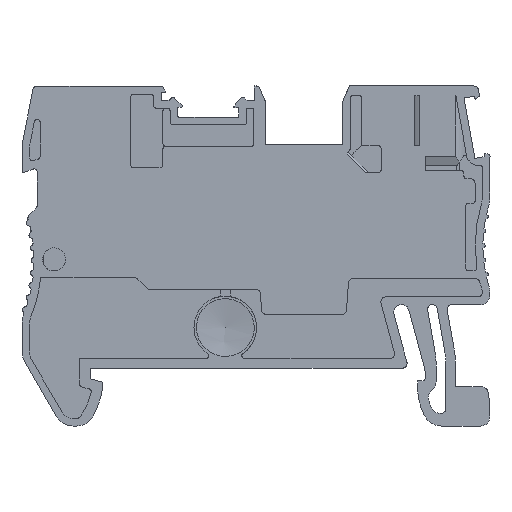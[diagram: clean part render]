
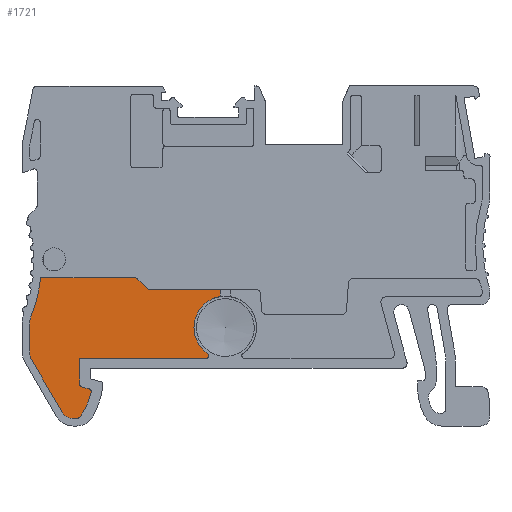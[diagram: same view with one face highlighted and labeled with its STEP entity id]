
A CAD part, left-side view. The second image highlights one B-rep face of the part: STEP entity #1721.
In plain terms, the highlighted planar face has unit normal (-1, 0, 0).
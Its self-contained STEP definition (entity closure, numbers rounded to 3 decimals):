
#1721=ADVANCED_FACE('',(#2787),#2223,.T.);
#2223=PLANE('',#14920);
#2787=FACE_OUTER_BOUND('',#3484,.T.);
#3484=EDGE_LOOP('',(#6765,#6766,#6767,#6768,#6769,#6770,#6771,#6772,#6773,
#6774,#6775,#6776,#6777,#6778,#6779,#6780,#6781,#6782,#6783,#6784,#6785,
#6786,#6787,#6788,#6789));
#4186=CIRCLE('',#14874,3.25);
#4187=CIRCLE('',#14875,3.25);
#4188=CIRCLE('',#14884,0.3);
#4189=CIRCLE('',#14888,0.3);
#4190=CIRCLE('',#14891,0.3);
#4191=CIRCLE('',#14893,7.797);
#4192=CIRCLE('',#14895,0.5);
#4193=CIRCLE('',#14898,1.2);
#4194=CIRCLE('',#14901,2.);
#4195=CIRCLE('',#14904,2.);
#4196=CIRCLE('',#14906,15.8);
#4197=CIRCLE('',#14909,0.5);
#4198=CIRCLE('',#14912,0.5);
#4199=CIRCLE('',#14915,0.2);
#4200=CIRCLE('',#14918,0.2);
#6765=ORIENTED_EDGE('',*,*,#10786,.T.);
#6766=ORIENTED_EDGE('',*,*,#10841,.T.);
#6767=ORIENTED_EDGE('',*,*,#10839,.T.);
#6768=ORIENTED_EDGE('',*,*,#10837,.T.);
#6769=ORIENTED_EDGE('',*,*,#10835,.F.);
#6770=ORIENTED_EDGE('',*,*,#10832,.T.);
#6771=ORIENTED_EDGE('',*,*,#10830,.T.);
#6772=ORIENTED_EDGE('',*,*,#10828,.T.);
#6773=ORIENTED_EDGE('',*,*,#10826,.T.);
#6774=ORIENTED_EDGE('',*,*,#10824,.T.);
#6775=ORIENTED_EDGE('',*,*,#10822,.T.);
#6776=ORIENTED_EDGE('',*,*,#10820,.F.);
#6777=ORIENTED_EDGE('',*,*,#10818,.T.);
#6778=ORIENTED_EDGE('',*,*,#10816,.T.);
#6779=ORIENTED_EDGE('',*,*,#10814,.T.);
#6780=ORIENTED_EDGE('',*,*,#10812,.F.);
#6781=ORIENTED_EDGE('',*,*,#10810,.T.);
#6782=ORIENTED_EDGE('',*,*,#10808,.T.);
#6783=ORIENTED_EDGE('',*,*,#10806,.T.);
#6784=ORIENTED_EDGE('',*,*,#10804,.T.);
#6785=ORIENTED_EDGE('',*,*,#10802,.T.);
#6786=ORIENTED_EDGE('',*,*,#10800,.F.);
#6787=ORIENTED_EDGE('',*,*,#10798,.F.);
#6788=ORIENTED_EDGE('',*,*,#10796,.T.);
#6789=ORIENTED_EDGE('',*,*,#10787,.T.);
#9126=VERTEX_POINT('',#21807);
#9127=VERTEX_POINT('',#21809);
#9128=VERTEX_POINT('',#21811);
#9129=VERTEX_POINT('',#21829);
#9130=VERTEX_POINT('',#21833);
#9131=VERTEX_POINT('',#21837);
#9132=VERTEX_POINT('',#21841);
#9133=VERTEX_POINT('',#21845);
#9134=VERTEX_POINT('',#21849);
#9135=VERTEX_POINT('',#21853);
#9136=VERTEX_POINT('',#21857);
#9137=VERTEX_POINT('',#21861);
#9138=VERTEX_POINT('',#21865);
#9139=VERTEX_POINT('',#21869);
#9140=VERTEX_POINT('',#21873);
#9141=VERTEX_POINT('',#21877);
#9142=VERTEX_POINT('',#21881);
#9143=VERTEX_POINT('',#21885);
#9144=VERTEX_POINT('',#21889);
#9145=VERTEX_POINT('',#21893);
#9146=VERTEX_POINT('',#21897);
#9147=VERTEX_POINT('',#21901);
#9148=VERTEX_POINT('',#21906);
#9149=VERTEX_POINT('',#21910);
#9150=VERTEX_POINT('',#21914);
#10786=EDGE_CURVE('',#9127,#9126,#4186,.T.);
#10787=EDGE_CURVE('',#9128,#9127,#4187,.T.);
#10796=EDGE_CURVE('',#9129,#9128,#4188,.T.);
#10798=EDGE_CURVE('',#9129,#9130,#12293,.T.);
#10800=EDGE_CURVE('',#9130,#9131,#12295,.T.);
#10802=EDGE_CURVE('',#9132,#9131,#4189,.T.);
#10804=EDGE_CURVE('',#9133,#9132,#12298,.T.);
#10806=EDGE_CURVE('',#9134,#9133,#4190,.T.);
#10808=EDGE_CURVE('',#9135,#9134,#4191,.T.);
#10810=EDGE_CURVE('',#9136,#9135,#4192,.T.);
#10812=EDGE_CURVE('',#9136,#9137,#12303,.T.);
#10814=EDGE_CURVE('',#9138,#9137,#4193,.T.);
#10816=EDGE_CURVE('',#9139,#9138,#12306,.T.);
#10818=EDGE_CURVE('',#9140,#9139,#4194,.T.);
#10820=EDGE_CURVE('',#9140,#9141,#12309,.T.);
#10822=EDGE_CURVE('',#9142,#9141,#4195,.T.);
#10824=EDGE_CURVE('',#9143,#9142,#4196,.T.);
#10826=EDGE_CURVE('',#9144,#9143,#12313,.T.);
#10828=EDGE_CURVE('',#9145,#9144,#4197,.T.);
#10830=EDGE_CURVE('',#9146,#9145,#12316,.T.);
#10832=EDGE_CURVE('',#9147,#9146,#4198,.T.);
#10835=EDGE_CURVE('',#9147,#9148,#12320,.T.);
#10837=EDGE_CURVE('',#9149,#9148,#4199,.T.);
#10839=EDGE_CURVE('',#9150,#9149,#12323,.T.);
#10841=EDGE_CURVE('',#9126,#9150,#4200,.T.);
#12293=LINE('',#21832,#13617);
#12295=LINE('',#21836,#13619);
#12298=LINE('',#21844,#13622);
#12303=LINE('',#21860,#13627);
#12306=LINE('',#21868,#13630);
#12309=LINE('',#21876,#13633);
#12313=LINE('',#21888,#13637);
#12316=LINE('',#21896,#13640);
#12320=LINE('',#21905,#13644);
#12323=LINE('',#21913,#13647);
#13617=VECTOR('',#17853,1.);
#13619=VECTOR('',#17857,1.);
#13622=VECTOR('',#17866,1.);
#13627=VECTOR('',#17885,1.);
#13630=VECTOR('',#17894,1.);
#13633=VECTOR('',#17903,1.);
#13637=VECTOR('',#17917,1.);
#13640=VECTOR('',#17926,1.);
#13644=VECTOR('',#17936,1.);
#13647=VECTOR('',#17945,1.);
#14874=AXIS2_PLACEMENT_3D('',#21808,#17820,#17821);
#14875=AXIS2_PLACEMENT_3D('',#21810,#17822,#17823);
#14884=AXIS2_PLACEMENT_3D('',#21828,#17848,#17849);
#14888=AXIS2_PLACEMENT_3D('',#21840,#17861,#17862);
#14891=AXIS2_PLACEMENT_3D('',#21848,#17870,#17871);
#14893=AXIS2_PLACEMENT_3D('',#21852,#17875,#17876);
#14895=AXIS2_PLACEMENT_3D('',#21856,#17880,#17881);
#14898=AXIS2_PLACEMENT_3D('',#21864,#17889,#17890);
#14901=AXIS2_PLACEMENT_3D('',#21872,#17898,#17899);
#14904=AXIS2_PLACEMENT_3D('',#21880,#17907,#17908);
#14906=AXIS2_PLACEMENT_3D('',#21884,#17912,#17913);
#14909=AXIS2_PLACEMENT_3D('',#21892,#17921,#17922);
#14912=AXIS2_PLACEMENT_3D('',#21900,#17930,#17931);
#14915=AXIS2_PLACEMENT_3D('',#21909,#17940,#17941);
#14918=AXIS2_PLACEMENT_3D('',#21917,#17949,#17950);
#14920=AXIS2_PLACEMENT_3D('',#21919,#17953,#17954);
#17820=DIRECTION('',(1.,0.,0.));
#17821=DIRECTION('',(0.,0.562,0.827));
#17822=DIRECTION('',(1.,0.,0.));
#17823=DIRECTION('',(0.,0.567,-0.824));
#17848=DIRECTION('',(-1.,0.,0.));
#17849=DIRECTION('',(0.,0.,-1.));
#17853=DIRECTION('',(0.,1.,0.));
#17857=DIRECTION('',(0.,0.,-1.));
#17861=DIRECTION('',(1.,0.,0.));
#17862=DIRECTION('',(0.,0.255,-0.967));
#17866=DIRECTION('',(0.,0.967,0.255));
#17870=DIRECTION('',(-1.,0.,0.));
#17871=DIRECTION('',(0.,-0.971,-0.24));
#17875=DIRECTION('',(-1.,0.,0.));
#17876=DIRECTION('',(0.,-0.83,-0.558));
#17880=DIRECTION('',(-1.,0.,0.));
#17881=DIRECTION('',(0.,0.,-1.));
#17885=DIRECTION('',(0.,1.,0.));
#17889=DIRECTION('',(-1.,0.,0.));
#17890=DIRECTION('',(0.,0.864,-0.504));
#17894=DIRECTION('',(0.,-0.504,-0.864));
#17898=DIRECTION('',(-1.,0.,0.));
#17899=DIRECTION('',(0.,1.,0.));
#17903=DIRECTION('',(0.,0.,1.));
#17907=DIRECTION('',(-1.,0.,0.));
#17908=DIRECTION('',(0.,0.928,0.372));
#17912=DIRECTION('',(1.,0.,0.));
#17913=DIRECTION('',(0.,-0.993,-0.114));
#17917=DIRECTION('',(0.,1.,0.));
#17921=DIRECTION('',(-1.,0.,0.));
#17922=DIRECTION('',(0.,-0.707,0.707));
#17926=DIRECTION('',(0.,0.707,0.707));
#17930=DIRECTION('',(1.,0.,0.));
#17931=DIRECTION('',(0.,0.,-1.));
#17936=DIRECTION('',(0.,-1.,0.));
#17940=DIRECTION('',(-1.,0.,0.));
#17941=DIRECTION('',(0.,-1.,0.));
#17945=DIRECTION('',(0.,0.,1.));
#17949=DIRECTION('',(-1.,0.,0.));
#17950=DIRECTION('',(0.,-0.203,-0.979));
#17953=DIRECTION('',(-1.,0.,0.));
#17954=DIRECTION('',(0.,-1.,0.));
#21807=CARTESIAN_POINT('',(2.05,28.134,20.182));
#21808=CARTESIAN_POINT('',(2.05,27.475,17.));
#21809=CARTESIAN_POINT('',(2.05,29.302,19.688));
#21810=CARTESIAN_POINT('',(2.05,27.475,17.));
#21811=CARTESIAN_POINT('',(2.05,29.319,14.324));
#21828=CARTESIAN_POINT('',(2.05,29.489,14.076));
#21829=CARTESIAN_POINT('',(2.05,29.489,13.776));
#21832=CARTESIAN_POINT('',(2.05,29.489,13.776));
#21833=CARTESIAN_POINT('',(2.05,42.6,13.776));
#21836=CARTESIAN_POINT('',(2.05,42.6,13.776));
#21837=CARTESIAN_POINT('',(2.05,42.6,11.131));
#21840=CARTESIAN_POINT('',(2.05,42.3,11.131));
#21841=CARTESIAN_POINT('',(2.05,42.376,10.84));
#21844=CARTESIAN_POINT('',(2.05,41.608,10.638));
#21845=CARTESIAN_POINT('',(2.05,41.608,10.638));
#21848=CARTESIAN_POINT('',(2.05,41.685,10.348));
#21849=CARTESIAN_POINT('',(2.05,41.393,10.276));
#21852=CARTESIAN_POINT('',(2.05,48.961,12.151));
#21853=CARTESIAN_POINT('',(2.05,42.493,7.797));
#21856=CARTESIAN_POINT('',(2.05,42.908,8.076));
#21857=CARTESIAN_POINT('',(2.05,42.908,7.576));
#21860=CARTESIAN_POINT('',(2.05,42.908,7.576));
#21861=CARTESIAN_POINT('',(2.05,43.346,7.576));
#21864=CARTESIAN_POINT('',(2.05,43.346,8.776));
#21865=CARTESIAN_POINT('',(2.05,44.382,8.172));
#21868=CARTESIAN_POINT('',(2.05,47.527,13.561));
#21869=CARTESIAN_POINT('',(2.05,47.527,13.561));
#21872=CARTESIAN_POINT('',(2.05,45.8,14.569));
#21873=CARTESIAN_POINT('',(2.05,47.8,14.569));
#21876=CARTESIAN_POINT('',(2.05,47.8,14.569));
#21877=CARTESIAN_POINT('',(2.05,47.8,17.355));
#21880=CARTESIAN_POINT('',(2.05,45.8,17.355));
#21881=CARTESIAN_POINT('',(2.05,47.656,18.099));
#21884=CARTESIAN_POINT('',(2.05,62.323,23.976));
#21885=CARTESIAN_POINT('',(2.05,46.626,22.176));
#21888=CARTESIAN_POINT('',(2.05,36.907,22.176));
#21889=CARTESIAN_POINT('',(2.05,36.907,22.176));
#21892=CARTESIAN_POINT('',(2.05,36.907,21.676));
#21893=CARTESIAN_POINT('',(2.05,36.554,22.03));
#21896=CARTESIAN_POINT('',(2.05,35.646,21.123));
#21897=CARTESIAN_POINT('',(2.05,35.646,21.123));
#21900=CARTESIAN_POINT('',(2.05,35.293,21.476));
#21901=CARTESIAN_POINT('',(2.05,35.293,20.976));
#21905=CARTESIAN_POINT('',(2.05,35.293,20.976));
#21906=CARTESIAN_POINT('',(2.05,28.175,20.976));
#21909=CARTESIAN_POINT('',(2.05,28.175,20.776));
#21910=CARTESIAN_POINT('',(2.05,27.975,20.776));
#21913=CARTESIAN_POINT('',(2.05,27.975,20.378));
#21914=CARTESIAN_POINT('',(2.05,27.975,20.378));
#21917=CARTESIAN_POINT('',(2.05,28.175,20.378));
#21919=CARTESIAN_POINT('',(2.05,48.326,7.182));
